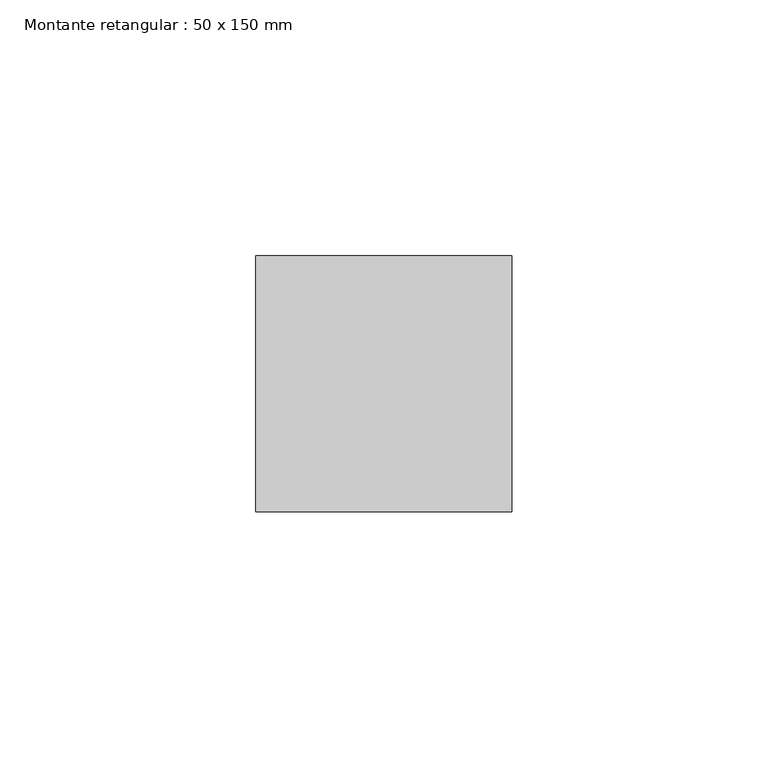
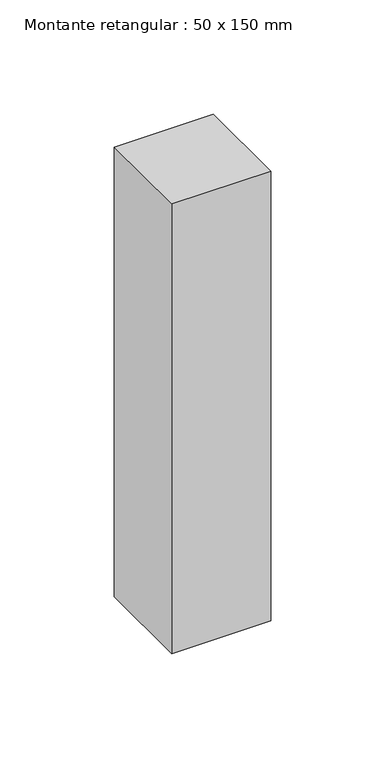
"""IFC4 building model written with IfcOpenShell, lengths in millimetres: member geometry, Montante retangular : 50 x 150 mm."""

from ifc_helpers import new_model, si_unit, frame, origin, place, context, project, spatial, polyline, outline, extrude, source, transform, mapped, element, save


def montante_retangular_50_x_150_mm_b12e9d4d(model_context):
    return source(origin(), model_context, "Body", "SweptSolid", [
        extrude(outline(polyline([(25.0, 25.0), (25.0, -25.0), (-25.0, -25.0), (-25.0, 25.0), (25.0, 25.0)])), frame((0.0, 0.0, -240.0), z_axis=(0.0, 0.0, 1.0), x_axis=(1.0, 0.0, 0.0)), (0.0, 0.0, 1.0), 240.0),
    ])


if __name__ == "__main__":
    model = new_model("IFC4")
    model_context = context("Model", 3, world=origin())
    ifc_project = project(units=[si_unit("LENGTHUNIT", "METRE", prefix="MILLI")], contexts=[model_context])
    site = spatial("IfcSite", under=ifc_project)
    building = spatial("IfcBuilding", under=site)
    placement = place(None, origin())
    montante_retangular_50_x_150_mm_shape = montante_retangular_50_x_150_mm_b12e9d4d(model_context)
    element("IfcMember", 1, ObjectType="Montante retangular : 50 x 150 mm", at=placement, inside=building, context=model_context, shape_type="MappedRepresentation", body=[
        mapped(montante_retangular_50_x_150_mm_shape, transform((0.0, 0.0, 0.0), x_axis=(1.0, 0.0, 0.0), y_axis=(0.0, 1.0, 0.0), z_axis=(0.0, 0.0, 1.0))),
    ])
    save(model, "model.ifc")
